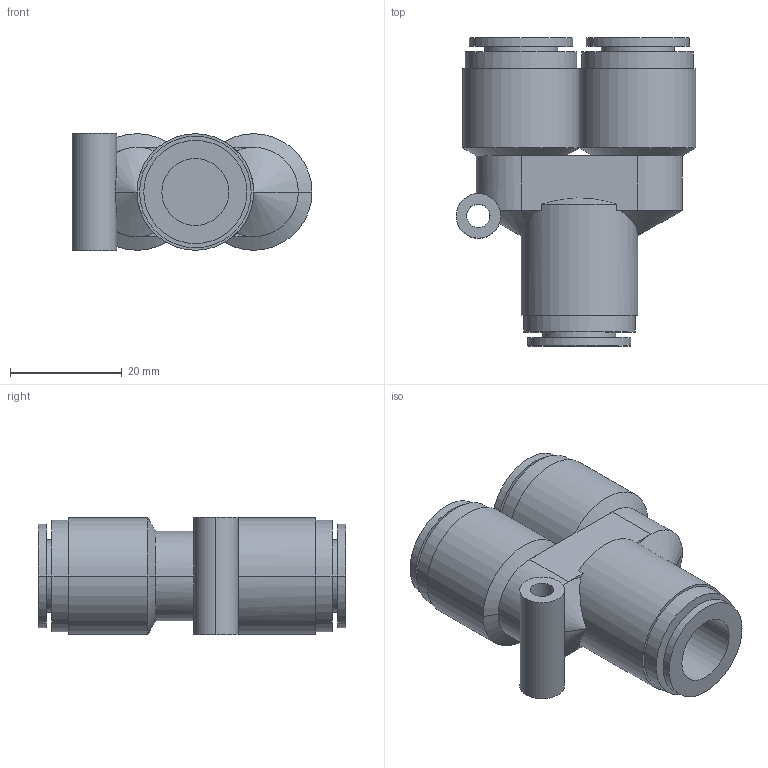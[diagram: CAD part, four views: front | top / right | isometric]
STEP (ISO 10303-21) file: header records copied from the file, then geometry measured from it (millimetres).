
FILE_DESCRIPTION( ( '' ), '1' );
FILE_NAME( 'G:/SMC狟婥/KPU12-00.stp', '2023-03-07T02:15:15', ( '' ), ( '' ), ' ', ' ', ' ' );
FILE_SCHEMA( ( 'CONFIG_CONTROL_DESIGN' ) );
Length unit declared in the file: millimetre
Products named in the file (1): 1
Bounding box: 42.99 x 55.2 x 21.1 mm (x, y, z)
Volume: 19537.2 mm3; surface area: 10894.9 mm2
Topology: 1 solids, 1 shells, 72 faces, 161 edges, 99 vertices
Faces by surface type: cylinder 38, plane 24, cone 10
Entity records: 2247 total; most frequent: CARTESIAN_POINT 561, DIRECTION 379, ORIENTED_EDGE 314, AXIS2_PLACEMENT_3D 161, EDGE_CURVE 157, VERTEX_POINT 99, CIRCLE 88, EDGE_LOOP 86
